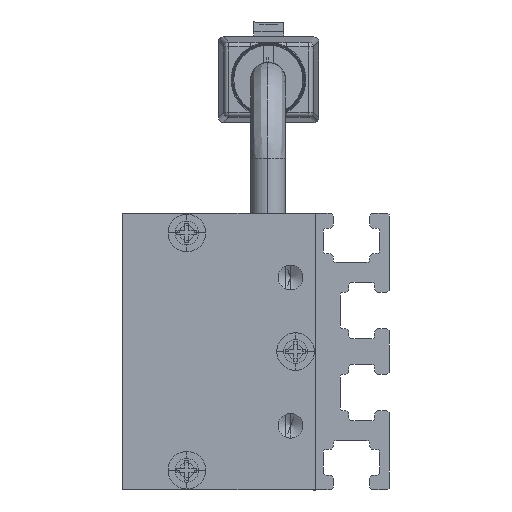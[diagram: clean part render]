
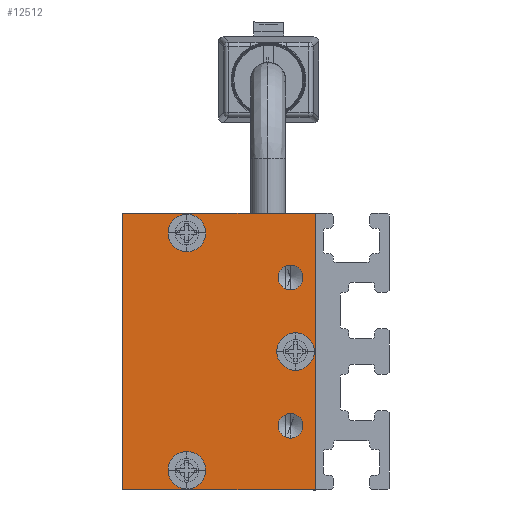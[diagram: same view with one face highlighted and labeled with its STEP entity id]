
A CAD part, left-side view. The second image highlights one B-rep face of the part: STEP entity #12512.
In plain terms, the highlighted planar face has unit normal (-1, 0, 0) as drawn and (0, 0, -1) by its records, which use the part's own axes.
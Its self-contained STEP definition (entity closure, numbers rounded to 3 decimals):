
#106 = CARTESIAN_POINT ( 'NONE',  ( -6.25, 2.5, -2.5 ) ) ;
#279 = DIRECTION ( 'NONE',  ( 0., 0., -1. ) ) ;
#301 = DIRECTION ( 'NONE',  ( 0., 0., -1. ) ) ;
#378 = VERTEX_POINT ( 'NONE', #9053 ) ;
#541 = DIRECTION ( 'NONE',  ( -1., 0., 0. ) ) ;
#670 = ORIENTED_EDGE ( 'NONE', *, *, #7263, .F. ) ;
#687 = FACE_BOUND ( 'NONE', #2241, .T. ) ;
#1049 = VERTEX_POINT ( 'NONE', #7865 ) ;
#1112 = DIRECTION ( 'NONE',  ( 0., 0., -1. ) ) ;
#1147 = CARTESIAN_POINT ( 'NONE',  ( 10.1, 13., -2.5 ) ) ;
#1233 = VERTEX_POINT ( 'NONE', #10842 ) ;
#1263 = EDGE_CURVE ( 'NONE', #8544, #1233, #11753, .T. ) ;
#1319 = CARTESIAN_POINT ( 'NONE',  ( 0., 2., -2.5 ) ) ;
#1363 = DIRECTION ( 'NONE',  ( 0., 1., 0. ) ) ;
#1430 = CIRCLE ( 'NONE', #7798, 1.9 ) ;
#1433 = CARTESIAN_POINT ( 'NONE',  ( 14., 19.5, -2.5 ) ) ;
#1535 = ORIENTED_EDGE ( 'NONE', *, *, #13617, .F. ) ;
#1693 = DIRECTION ( 'NONE',  ( 0., 0., -1. ) ) ;
#1695 = CIRCLE ( 'NONE', #12798, 1.9 ) ;
#2011 = EDGE_CURVE ( 'NONE', #1233, #5848, #11589, .T. ) ;
#2073 = DIRECTION ( 'NONE',  ( -1., 0., 0. ) ) ;
#2239 = DIRECTION ( 'NONE',  ( -1., 0., 0. ) ) ;
#2241 = EDGE_LOOP ( 'NONE', ( #7043, #11165 ) ) ;
#2245 = ORIENTED_EDGE ( 'NONE', *, *, #8644, .F. ) ;
#2461 = ORIENTED_EDGE ( 'NONE', *, *, #3671, .F. ) ;
#2519 = ORIENTED_EDGE ( 'NONE', *, *, #5185, .F. ) ;
#2647 = VECTOR ( 'NONE', #2982, 1000. ) ;
#2906 = FACE_BOUND ( 'NONE', #6394, .T. ) ;
#2982 = DIRECTION ( 'NONE',  ( 1., 0., 0. ) ) ;
#3039 = CARTESIAN_POINT ( 'NONE',  ( -14., 19.5, -2.5 ) ) ;
#3055 = AXIS2_PLACEMENT_3D ( 'NONE', #5952, #11505, #541 ) ;
#3082 = VERTEX_POINT ( 'NONE', #8161 ) ;
#3163 = CARTESIAN_POINT ( 'NONE',  ( -12., 13., -2.5 ) ) ;
#3167 = DIRECTION ( 'NONE',  ( -1., 0., 0. ) ) ;
#3210 = EDGE_LOOP ( 'NONE', ( #9791, #6562 ) ) ;
#3418 = DIRECTION ( 'NONE',  ( 0., 0., -1. ) ) ;
#3564 = LINE ( 'NONE', #6966, #11076 ) ;
#3581 = EDGE_CURVE ( 'NONE', #4280, #1049, #7422, .T. ) ;
#3627 = DIRECTION ( 'NONE',  ( -1., 0., 0. ) ) ;
#3671 = EDGE_CURVE ( 'NONE', #3082, #8544, #3564, .T. ) ;
#3846 = AXIS2_PLACEMENT_3D ( 'NONE', #5950, #1693, #7156 ) ;
#3859 = CARTESIAN_POINT ( 'NONE',  ( -8.75, 2.5, -2.5 ) ) ;
#3890 = CARTESIAN_POINT ( 'NONE',  ( -13.9, 13., -2.5 ) ) ;
#3901 = CIRCLE ( 'NONE', #7122, 1.25 ) ;
#4136 = VECTOR ( 'NONE', #1363, 1000. ) ;
#4280 = VERTEX_POINT ( 'NONE', #3890 ) ;
#4906 = DIRECTION ( 'NONE',  ( 0., 0., -1. ) ) ;
#5086 = AXIS2_PLACEMENT_3D ( 'NONE', #1319, #301, #12193 ) ;
#5136 = VERTEX_POINT ( 'NONE', #106 ) ;
#5185 = EDGE_CURVE ( 'NONE', #6452, #12019, #1430, .T. ) ;
#5222 = EDGE_CURVE ( 'NONE', #11142, #5386, #9384, .T. ) ;
#5373 = DIRECTION ( 'NONE',  ( 0., 0., -1. ) ) ;
#5383 = CARTESIAN_POINT ( 'NONE',  ( -7.5, 2.5, -2.5 ) ) ;
#5386 = VERTEX_POINT ( 'NONE', #6006 ) ;
#5603 = CIRCLE ( 'NONE', #13518, 1.25 ) ;
#5710 = DIRECTION ( 'NONE',  ( 0., 0., -1. ) ) ;
#5753 = CIRCLE ( 'NONE', #9390, 1.25 ) ;
#5774 = LINE ( 'NONE', #1433, #4136 ) ;
#5848 = VERTEX_POINT ( 'NONE', #7141 ) ;
#5950 = CARTESIAN_POINT ( 'NONE',  ( 0., 2., -2.5 ) ) ;
#5952 = CARTESIAN_POINT ( 'NONE',  ( 7.5, 2.5, -2.5 ) ) ;
#6006 = CARTESIAN_POINT ( 'NONE',  ( 1.9, 2., -2.5 ) ) ;
#6176 = FACE_OUTER_BOUND ( 'NONE', #7497, .T. ) ;
#6230 = EDGE_CURVE ( 'NONE', #5136, #10119, #5603, .T. ) ;
#6394 = EDGE_LOOP ( 'NONE', ( #9833, #2245 ) ) ;
#6452 = VERTEX_POINT ( 'NONE', #1147 ) ;
#6562 = ORIENTED_EDGE ( 'NONE', *, *, #6230, .F. ) ;
#6566 = CARTESIAN_POINT ( 'NONE',  ( -14., 0., -2.5 ) ) ;
#6964 = ORIENTED_EDGE ( 'NONE', *, *, #1263, .F. ) ;
#6966 = CARTESIAN_POINT ( 'NONE',  ( -14., 19.5, -2.5 ) ) ;
#7043 = ORIENTED_EDGE ( 'NONE', *, *, #3581, .F. ) ;
#7047 = DIRECTION ( 'NONE',  ( -1., 0., 0. ) ) ;
#7122 = AXIS2_PLACEMENT_3D ( 'NONE', #8293, #13596, #11497 ) ;
#7141 = CARTESIAN_POINT ( 'NONE',  ( 14., 0., -2.5 ) ) ;
#7156 = DIRECTION ( 'NONE',  ( -1., 0., 0. ) ) ;
#7263 = EDGE_CURVE ( 'NONE', #5386, #11142, #14042, .T. ) ;
#7422 = CIRCLE ( 'NONE', #7655, 1.9 ) ;
#7497 = EDGE_LOOP ( 'NONE', ( #1535, #8919, #6964, #2461 ) ) ;
#7655 = AXIS2_PLACEMENT_3D ( 'NONE', #9756, #3418, #2073 ) ;
#7668 = CARTESIAN_POINT ( 'NONE',  ( -1.9, 2., -2.5 ) ) ;
#7798 = AXIS2_PLACEMENT_3D ( 'NONE', #10774, #13946, #3167 ) ;
#7865 = CARTESIAN_POINT ( 'NONE',  ( -10.1, 13., -2.5 ) ) ;
#8009 = AXIS2_PLACEMENT_3D ( 'NONE', #12628, #4906, #13401 ) ;
#8146 = EDGE_CURVE ( 'NONE', #12019, #6452, #1695, .T. ) ;
#8161 = CARTESIAN_POINT ( 'NONE',  ( 14., 19.5, -2.5 ) ) ;
#8293 = CARTESIAN_POINT ( 'NONE',  ( 7.5, 2.5, -2.5 ) ) ;
#8544 = VERTEX_POINT ( 'NONE', #3039 ) ;
#8631 = DIRECTION ( 'NONE',  ( 0., -1., 0. ) ) ;
#8644 = EDGE_CURVE ( 'NONE', #378, #12973, #9642, .T. ) ;
#8703 = CIRCLE ( 'NONE', #9375, 1.9 ) ;
#8919 = ORIENTED_EDGE ( 'NONE', *, *, #2011, .F. ) ;
#9042 = CARTESIAN_POINT ( 'NONE',  ( -7.5, 2.5, -2.5 ) ) ;
#9053 = CARTESIAN_POINT ( 'NONE',  ( 8.75, 2.5, -2.5 ) ) ;
#9300 = FACE_BOUND ( 'NONE', #12818, .T. ) ;
#9375 = AXIS2_PLACEMENT_3D ( 'NONE', #3163, #5373, #2239 ) ;
#9384 = CIRCLE ( 'NONE', #5086, 1.9 ) ;
#9390 = AXIS2_PLACEMENT_3D ( 'NONE', #9042, #279, #3627 ) ;
#9464 = CARTESIAN_POINT ( 'NONE',  ( 14., 0., -2.5 ) ) ;
#9579 = ORIENTED_EDGE ( 'NONE', *, *, #8146, .F. ) ;
#9642 = CIRCLE ( 'NONE', #3055, 1.25 ) ;
#9670 = VECTOR ( 'NONE', #8631, 1000. ) ;
#9756 = CARTESIAN_POINT ( 'NONE',  ( -12., 13., -2.5 ) ) ;
#9791 = ORIENTED_EDGE ( 'NONE', *, *, #12544, .F. ) ;
#9833 = ORIENTED_EDGE ( 'NONE', *, *, #13101, .F. ) ;
#9861 = DIRECTION ( 'NONE',  ( -1., 0., 0. ) ) ;
#10119 = VERTEX_POINT ( 'NONE', #3859 ) ;
#10285 = CARTESIAN_POINT ( 'NONE',  ( 6.25, 2.5, -2.5 ) ) ;
#10515 = PLANE ( 'NONE',  #8009 ) ;
#10774 = CARTESIAN_POINT ( 'NONE',  ( 12., 13., -2.5 ) ) ;
#10842 = CARTESIAN_POINT ( 'NONE',  ( -14., 0., -2.5 ) ) ;
#10963 = EDGE_LOOP ( 'NONE', ( #13430, #670 ) ) ;
#11076 = VECTOR ( 'NONE', #11314, 1000. ) ;
#11142 = VERTEX_POINT ( 'NONE', #7668 ) ;
#11165 = ORIENTED_EDGE ( 'NONE', *, *, #11989, .F. ) ;
#11256 = CARTESIAN_POINT ( 'NONE',  ( 12., 13., -2.5 ) ) ;
#11300 = FACE_BOUND ( 'NONE', #3210, .T. ) ;
#11314 = DIRECTION ( 'NONE',  ( -1., 0., 0. ) ) ;
#11497 = DIRECTION ( 'NONE',  ( -1., 0., 0. ) ) ;
#11505 = DIRECTION ( 'NONE',  ( 0., 0., -1. ) ) ;
#11512 = FACE_BOUND ( 'NONE', #10963, .T. ) ;
#11589 = LINE ( 'NONE', #9464, #2647 ) ;
#11753 = LINE ( 'NONE', #6566, #9670 ) ;
#11900 = CARTESIAN_POINT ( 'NONE',  ( 13.9, 13., -2.5 ) ) ;
#11989 = EDGE_CURVE ( 'NONE', #1049, #4280, #8703, .T. ) ;
#12019 = VERTEX_POINT ( 'NONE', #11900 ) ;
#12193 = DIRECTION ( 'NONE',  ( -1., 0., 0. ) ) ;
#12512 = ADVANCED_FACE ( 'NONE', ( #9300, #687, #11512, #2906, #11300, #6176 ), #10515, .T. ) ;
#12544 = EDGE_CURVE ( 'NONE', #10119, #5136, #5753, .T. ) ;
#12628 = CARTESIAN_POINT ( 'NONE',  ( 0., 0., -2.5 ) ) ;
#12798 = AXIS2_PLACEMENT_3D ( 'NONE', #11256, #5710, #7047 ) ;
#12818 = EDGE_LOOP ( 'NONE', ( #2519, #9579 ) ) ;
#12973 = VERTEX_POINT ( 'NONE', #10285 ) ;
#13101 = EDGE_CURVE ( 'NONE', #12973, #378, #3901, .T. ) ;
#13401 = DIRECTION ( 'NONE',  ( -1., 0., 0. ) ) ;
#13430 = ORIENTED_EDGE ( 'NONE', *, *, #5222, .F. ) ;
#13518 = AXIS2_PLACEMENT_3D ( 'NONE', #5383, #1112, #9861 ) ;
#13596 = DIRECTION ( 'NONE',  ( 0., 0., -1. ) ) ;
#13617 = EDGE_CURVE ( 'NONE', #5848, #3082, #5774, .T. ) ;
#13946 = DIRECTION ( 'NONE',  ( 0., 0., -1. ) ) ;
#14042 = CIRCLE ( 'NONE', #3846, 1.9 ) ;
